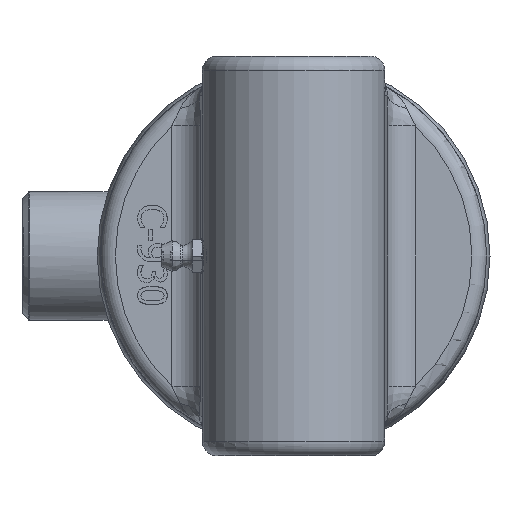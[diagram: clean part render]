
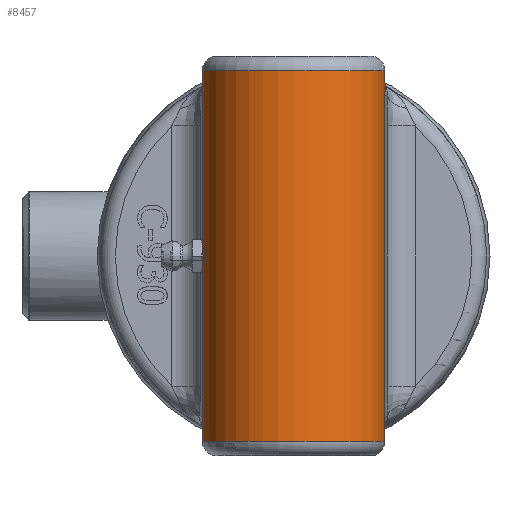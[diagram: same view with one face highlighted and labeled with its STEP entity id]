
A CAD part, left-side view. The second image highlights one B-rep face of the part: STEP entity #8457.
In plain terms, the highlighted cylindrical face has radius 20.32 mm (diameter 40.64 mm), a partial arc.
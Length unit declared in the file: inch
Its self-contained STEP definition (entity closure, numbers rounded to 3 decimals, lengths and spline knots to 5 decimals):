
#762=B_SPLINE_CURVE_WITH_KNOTS('',3,(#12551,#12552,#12553,#12554,#12555,
#12556,#12557,#12558,#12559,#12560,#12561,#12562,#12563,#12564,#12565),
 .UNSPECIFIED.,.F.,.F.,(4,2,2,3,2,2,4),(1.80622,1.89932,
2.0335,2.16768,2.30185,2.43603,2.52913),
 .UNSPECIFIED.);
#767=B_SPLINE_CURVE_WITH_KNOTS('',3,(#12634,#12635,#12636,#12637,#12638,
#12639,#12640,#12641),.UNSPECIFIED.,.F.,.F.,(4,1,1,2,4),(-1.41377,
-0.84826,-0.56551,0.,0.00179),
 .UNSPECIFIED.);
#768=B_SPLINE_CURVE_WITH_KNOTS('',3,(#12647,#12648,#12649,#12650,#12651,
#12652,#12653,#12654),.UNSPECIFIED.,.F.,.F.,(4,2,1,1,4),(-1.42444,
-1.42266,-0.85715,-0.5744,-0.00889),
 .UNSPECIFIED.);
#769=B_SPLINE_CURVE_WITH_KNOTS('',3,(#12658,#12659,#12660,#12661,#12662,
#12663,#12664,#12665),.UNSPECIFIED.,.F.,.F.,(4,1,1,2,4),(-1.41377,
-0.84826,-0.56551,0.,0.00179),
 .UNSPECIFIED.);
#770=B_SPLINE_CURVE_WITH_KNOTS('',3,(#12668,#12669,#12670,#12671,#12672,
#12673,#12674,#12675),.UNSPECIFIED.,.F.,.F.,(4,2,1,1,4),(-1.42444,
-1.42266,-0.85715,-0.5744,-0.00889),
 .UNSPECIFIED.);
#1384=LINE('',#12574,#1732);
#1386=LINE('',#12591,#1734);
#1388=LINE('',#12656,#1736);
#1732=VECTOR('',#10271,0.3937);
#1734=VECTOR('',#10277,0.3937);
#1736=VECTOR('',#10287,0.3937);
#2077=CYLINDRICAL_SURFACE('',#9262,0.8);
#2176=FACE_OUTER_BOUND('',#2703,.T.);
#2703=EDGE_LOOP('',(#5983,#5984,#5985,#5986,#5987,#5988,#5989,#5990,#5991,
#5992,#5993));
#3314=CIRCLE('',#9263,0.8);
#3315=CIRCLE('',#9264,0.8);
#3316=CIRCLE('',#9265,0.8);
#3809=VERTEX_POINT('',#12549);
#3810=VERTEX_POINT('',#12550);
#3813=VERTEX_POINT('',#12573);
#3818=VERTEX_POINT('',#12589);
#3821=VERTEX_POINT('',#12633);
#3822=VERTEX_POINT('',#12642);
#3823=VERTEX_POINT('',#12644);
#3824=VERTEX_POINT('',#12646);
#3825=VERTEX_POINT('',#12655);
#3826=VERTEX_POINT('',#12657);
#3827=VERTEX_POINT('',#12666);
#4640=EDGE_CURVE('',#3809,#3810,#762,.T.);
#4645=EDGE_CURVE('',#3809,#3813,#1384,.T.);
#4651=EDGE_CURVE('',#3818,#3810,#1386,.T.);
#4655=EDGE_CURVE('',#3821,#3818,#767,.T.);
#4656=EDGE_CURVE('',#3822,#3821,#3314,.T.);
#4657=EDGE_CURVE('',#3823,#3822,#3315,.T.);
#4658=EDGE_CURVE('',#3824,#3823,#768,.T.);
#4659=EDGE_CURVE('',#3824,#3825,#1388,.T.);
#4660=EDGE_CURVE('',#3826,#3825,#769,.T.);
#4661=EDGE_CURVE('',#3827,#3826,#3316,.T.);
#4662=EDGE_CURVE('',#3813,#3827,#770,.T.);
#5983=ORIENTED_EDGE('',*,*,#4640,.T.);
#5984=ORIENTED_EDGE('',*,*,#4651,.F.);
#5985=ORIENTED_EDGE('',*,*,#4655,.F.);
#5986=ORIENTED_EDGE('',*,*,#4656,.F.);
#5987=ORIENTED_EDGE('',*,*,#4657,.F.);
#5988=ORIENTED_EDGE('',*,*,#4658,.F.);
#5989=ORIENTED_EDGE('',*,*,#4659,.T.);
#5990=ORIENTED_EDGE('',*,*,#4660,.F.);
#5991=ORIENTED_EDGE('',*,*,#4661,.F.);
#5992=ORIENTED_EDGE('',*,*,#4662,.F.);
#5993=ORIENTED_EDGE('',*,*,#4645,.F.);
#8457=ADVANCED_FACE('',(#2176),#2077,.T.);
#9262=AXIS2_PLACEMENT_3D('',#12632,#10281,#10282);
#9263=AXIS2_PLACEMENT_3D('',#12643,#10283,#10284);
#9264=AXIS2_PLACEMENT_3D('',#12645,#10285,#10286);
#9265=AXIS2_PLACEMENT_3D('',#12667,#10288,#10289);
#10271=DIRECTION('',(0.,0.,1.));
#10277=DIRECTION('',(0.,0.,1.));
#10281=DIRECTION('center_axis',(0.,0.,1.));
#10282=DIRECTION('ref_axis',(-1.,0.,0.));
#10283=DIRECTION('center_axis',(0.,0.,-1.));
#10284=DIRECTION('ref_axis',(-1.,0.,0.));
#10285=DIRECTION('center_axis',(0.,0.,-1.));
#10286=DIRECTION('ref_axis',(-1.,0.,0.));
#10287=DIRECTION('',(0.,0.,1.));
#10288=DIRECTION('center_axis',(0.,0.,1.));
#10289=DIRECTION('ref_axis',(-1.,0.,0.));
#12549=CARTESIAN_POINT('',(-0.06972,0.79696,0.12601));
#12550=CARTESIAN_POINT('',(-0.06972,0.79696,-0.12601));
#12551=CARTESIAN_POINT('Ctrl Pts',(-0.06972,0.79696,
0.12601));
#12552=CARTESIAN_POINT('Ctrl Pts',(-0.08046,0.79602,
0.11899));
#12553=CARTESIAN_POINT('Ctrl Pts',(-0.09008,0.79495,
0.11046));
#12554=CARTESIAN_POINT('Ctrl Pts',(-0.10968,0.79253,
0.08811));
#12555=CARTESIAN_POINT('Ctrl Pts',(-0.11949,0.79105,
0.07176));
#12556=CARTESIAN_POINT('Ctrl Pts',(-0.1324,0.789,
0.03651));
#12557=CARTESIAN_POINT('Ctrl Pts',(-0.1355,0.78844,
0.01761));
#12558=CARTESIAN_POINT('Ctrl Pts',(-0.1355,0.78844,
0.));
#12559=CARTESIAN_POINT('Ctrl Pts',(-0.1355,0.78844,
-0.01761));
#12560=CARTESIAN_POINT('Ctrl Pts',(-0.1324,0.789,
-0.03651));
#12561=CARTESIAN_POINT('Ctrl Pts',(-0.11949,0.79105,
-0.07176));
#12562=CARTESIAN_POINT('Ctrl Pts',(-0.10968,0.79253,
-0.08811));
#12563=CARTESIAN_POINT('Ctrl Pts',(-0.09008,0.79495,
-0.11046));
#12564=CARTESIAN_POINT('Ctrl Pts',(-0.08046,0.79602,
-0.11899));
#12565=CARTESIAN_POINT('Ctrl Pts',(-0.06972,0.79696,
-0.12601));
#12573=CARTESIAN_POINT('',(-0.06972,0.79696,1.41));
#12574=CARTESIAN_POINT('',(-0.06972,0.79696,0.));
#12589=CARTESIAN_POINT('',(-0.06972,0.79696,-1.41));
#12591=CARTESIAN_POINT('',(-0.06972,0.79696,0.));
#12632=CARTESIAN_POINT('Origin',(0.,0.,0.));
#12633=CARTESIAN_POINT('',(0.36183,0.7135,-1.62));
#12634=CARTESIAN_POINT('Ctrl Pts',(0.36183,0.7135,
-1.62));
#12635=CARTESIAN_POINT('Ctrl Pts',(0.30641,0.7416,
-1.60293));
#12636=CARTESIAN_POINT('Ctrl Pts',(0.22061,0.77296,
-1.56621));
#12637=CARTESIAN_POINT('Ctrl Pts',(0.07561,0.80019,
-1.49229));
#12638=CARTESIAN_POINT('Ctrl Pts',(-0.01202,0.80197,
-1.44285));
#12639=CARTESIAN_POINT('Ctrl Pts',(-0.06936,0.79699,
-1.41021));
#12640=CARTESIAN_POINT('Ctrl Pts',(-0.06954,0.79697,
-1.41011));
#12641=CARTESIAN_POINT('Ctrl Pts',(-0.06972,0.79696,
-1.41));
#12642=CARTESIAN_POINT('',(-0.8,0.,-1.62));
#12643=CARTESIAN_POINT('Origin',(0.,0.,-1.62));
#12644=CARTESIAN_POINT('',(0.36183,-0.7135,-1.62));
#12645=CARTESIAN_POINT('Origin',(0.,0.,-1.62));
#12646=CARTESIAN_POINT('',(-0.06972,-0.79696,-1.41));
#12647=CARTESIAN_POINT('Ctrl Pts',(-0.06972,-0.79696,
-1.41));
#12648=CARTESIAN_POINT('Ctrl Pts',(-0.06954,-0.79697,
-1.41011));
#12649=CARTESIAN_POINT('Ctrl Pts',(-0.06936,-0.79699,
-1.41021));
#12650=CARTESIAN_POINT('Ctrl Pts',(-0.01203,-0.80197,
-1.44285));
#12651=CARTESIAN_POINT('Ctrl Pts',(0.07566,-0.80018,
-1.49233));
#12652=CARTESIAN_POINT('Ctrl Pts',(0.22056,-0.77298,
-1.56617));
#12653=CARTESIAN_POINT('Ctrl Pts',(0.30641,-0.7416,
-1.60293));
#12654=CARTESIAN_POINT('Ctrl Pts',(0.36183,-0.7135,
-1.62));
#12655=CARTESIAN_POINT('',(-0.06972,-0.79696,1.41));
#12656=CARTESIAN_POINT('',(-0.06972,-0.79696,0.));
#12657=CARTESIAN_POINT('',(0.36183,-0.7135,1.62));
#12658=CARTESIAN_POINT('Ctrl Pts',(0.36183,-0.7135,
1.62));
#12659=CARTESIAN_POINT('Ctrl Pts',(0.30641,-0.7416,
1.60293));
#12660=CARTESIAN_POINT('Ctrl Pts',(0.22061,-0.77296,
1.56621));
#12661=CARTESIAN_POINT('Ctrl Pts',(0.07561,-0.80019,
1.49229));
#12662=CARTESIAN_POINT('Ctrl Pts',(-0.01202,-0.80197,
1.44285));
#12663=CARTESIAN_POINT('Ctrl Pts',(-0.06936,-0.79699,
1.41021));
#12664=CARTESIAN_POINT('Ctrl Pts',(-0.06954,-0.79697,
1.41011));
#12665=CARTESIAN_POINT('Ctrl Pts',(-0.06972,-0.79696,
1.41));
#12666=CARTESIAN_POINT('',(0.36183,0.7135,1.62));
#12667=CARTESIAN_POINT('Origin',(0.,0.,1.62));
#12668=CARTESIAN_POINT('Ctrl Pts',(-0.06972,0.79696,
1.41));
#12669=CARTESIAN_POINT('Ctrl Pts',(-0.06954,0.79697,
1.41011));
#12670=CARTESIAN_POINT('Ctrl Pts',(-0.06936,0.79699,
1.41021));
#12671=CARTESIAN_POINT('Ctrl Pts',(-0.01203,0.80197,
1.44285));
#12672=CARTESIAN_POINT('Ctrl Pts',(0.07566,0.80018,
1.49233));
#12673=CARTESIAN_POINT('Ctrl Pts',(0.22056,0.77298,
1.56617));
#12674=CARTESIAN_POINT('Ctrl Pts',(0.30641,0.7416,
1.60293));
#12675=CARTESIAN_POINT('Ctrl Pts',(0.36183,0.7135,
1.62));
